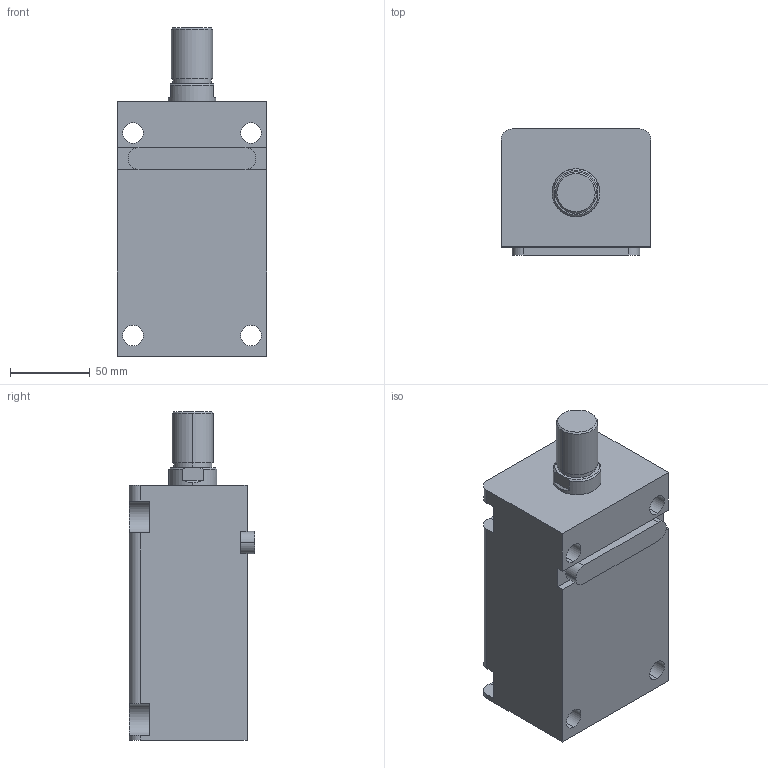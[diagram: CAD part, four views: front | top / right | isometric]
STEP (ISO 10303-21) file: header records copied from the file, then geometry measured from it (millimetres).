
FILE_DESCRIPTION (( 'STEP AP203' ), '1' );
FILE_NAME ('HTB-LA50-100W.STEP', '2019-10-09T07:14:24', ( '微软用户' ), ( '微软中国' ), 'SwSTEP 2.0', 'SolidWorks 2012', '' );
FILE_SCHEMA (( 'CONFIG_CONTROL_DESIGN' ));
Length unit declared in the file: millimetre
Products named in the file (4): HTB-LA50-100W活塞杆; HTB-LA50-100掛极; HTB-LA50-100W; HTB-LA50-瑩
Assembly tree (3 placements, depth 2):
  HTB-LA50-100W
    HTB-LA50-100掛极
    HTB-LA50-100W活塞杆
    HTB-LA50-瑩
Bounding box: 94 x 79 x 206 mm (x, y, z)
Volume: 961448.4 mm3; surface area: 129966.6 mm2
Topology: 3 solids, 3 shells, 90 faces, 219 edges, 144 vertices
Faces by surface type: plane 41, cylinder 37, cone 8, torus 4
Entity records: 3107 total; most frequent: DIRECTION 497, CARTESIAN_POINT 487, ORIENTED_EDGE 438, EDGE_CURVE 219, AXIS2_PLACEMENT_3D 190, VERTEX_POINT 144, LINE 117, VECTOR 117
